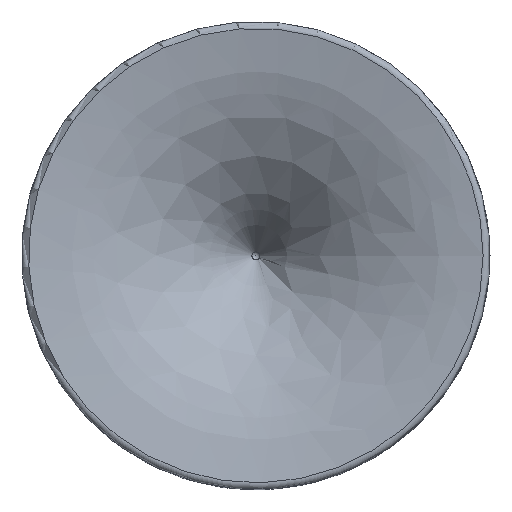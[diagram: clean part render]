
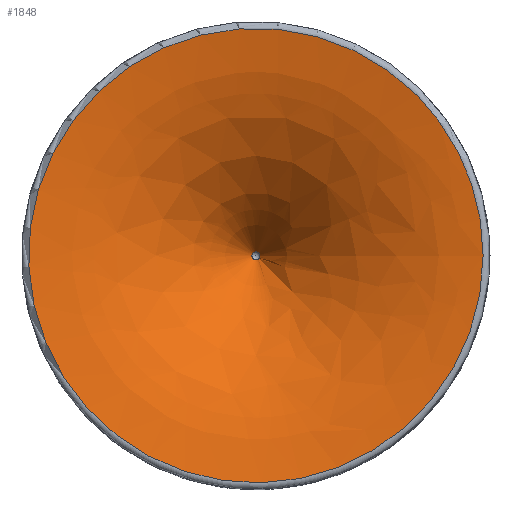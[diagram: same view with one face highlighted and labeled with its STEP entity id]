
A CAD part, top view. The second image highlights one B-rep face of the part: STEP entity #1848.
In plain terms, the highlighted free-form (B-spline) face has degree [2, 2] with [3, 9] control points.
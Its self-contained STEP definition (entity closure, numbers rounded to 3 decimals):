
#23=(
BOUNDED_SURFACE()
B_SPLINE_SURFACE(2,2,((#3410,#3411,#3412,#3413,#3414,#3415,#3416,#3417,
#3418),(#3419,#3420,#3421,#3422,#3423,#3424,#3425,#3426,#3427),(#3428,#3429,
#3430,#3431,#3432,#3433,#3434,#3435,#3436)),.UNSPECIFIED.,.F.,.T.,.F.)
B_SPLINE_SURFACE_WITH_KNOTS((3,3),(3,2,2,2,3),(1.673,2.567),
(-3.142,-1.571,0.,1.571,3.142),
 .UNSPECIFIED.)
GEOMETRIC_REPRESENTATION_ITEM()
RATIONAL_B_SPLINE_SURFACE(((1.,0.707,1.,0.707,1.,
0.707,1.,0.707,1.),(0.902,0.638,
0.902,0.638,0.902,0.638,0.902,
0.638,0.902),(1.,0.707,1.,0.707,
1.,0.707,1.,0.707,1.)))
REPRESENTATION_ITEM('')
SURFACE()
);
#341=FACE_OUTER_BOUND('',#493,.T.);
#493=EDGE_LOOP('',(#1581,#1582,#1583,#1584,#1585,#1586));
#809=CIRCLE('',#2287,2.519);
#811=CIRCLE('',#2289,2.519);
#812=CIRCLE('',#2290,145.591);
#813=CIRCLE('',#2291,194.);
#814=CIRCLE('',#2292,145.591);
#958=VERTEX_POINT('',#3404);
#959=VERTEX_POINT('',#3405);
#961=VERTEX_POINT('',#3437);
#962=VERTEX_POINT('',#3438);
#1173=EDGE_CURVE('',#958,#959,#809,.T.);
#1175=EDGE_CURVE('',#959,#958,#811,.T.);
#1176=EDGE_CURVE('',#961,#962,#812,.T.);
#1177=EDGE_CURVE('',#962,#958,#813,.T.);
#1178=EDGE_CURVE('',#962,#961,#814,.T.);
#1581=ORIENTED_EDGE('',*,*,#1176,.T.);
#1582=ORIENTED_EDGE('',*,*,#1177,.T.);
#1583=ORIENTED_EDGE('',*,*,#1175,.F.);
#1584=ORIENTED_EDGE('',*,*,#1173,.F.);
#1585=ORIENTED_EDGE('',*,*,#1177,.F.);
#1586=ORIENTED_EDGE('',*,*,#1178,.T.);
#1848=ADVANCED_FACE('',(#341),#23,.F.);
#2287=AXIS2_PLACEMENT_3D('',#3406,#2835,#2836);
#2289=AXIS2_PLACEMENT_3D('',#3409,#2839,#2840);
#2290=AXIS2_PLACEMENT_3D('',#3439,#2841,#2842);
#2291=AXIS2_PLACEMENT_3D('',#3440,#2843,#2844);
#2292=AXIS2_PLACEMENT_3D('',#3441,#2845,#2846);
#2835=DIRECTION('center_axis',(0.,0.,1.));
#2836=DIRECTION('ref_axis',(0.707,0.707,0.));
#2839=DIRECTION('center_axis',(0.,0.,1.));
#2840=DIRECTION('ref_axis',(0.707,0.707,0.));
#2841=DIRECTION('center_axis',(0.,0.,1.));
#2842=DIRECTION('ref_axis',(0.707,0.707,0.));
#2843=DIRECTION('center_axis',(0.,1.,0.));
#2844=DIRECTION('ref_axis',(-1.,0.,0.));
#2845=DIRECTION('center_axis',(0.,0.,1.));
#2846=DIRECTION('ref_axis',(0.707,0.707,0.));
#3404=CARTESIAN_POINT('',(-2.519,0.,182.87));
#3405=CARTESIAN_POINT('',(-1.781,1.781,182.87));
#3406=CARTESIAN_POINT('Origin',(0.,0.,182.87));
#3409=CARTESIAN_POINT('Origin',(0.,0.,182.87));
#3410=CARTESIAN_POINT('Ctrl Pts',(-145.591,0.,
270.479));
#3411=CARTESIAN_POINT('Ctrl Pts',(-145.591,-145.591,270.479));
#3412=CARTESIAN_POINT('Ctrl Pts',(0.,-145.591,
270.479));
#3413=CARTESIAN_POINT('Ctrl Pts',(145.591,-145.591,270.479));
#3414=CARTESIAN_POINT('Ctrl Pts',(145.591,0.,
270.479));
#3415=CARTESIAN_POINT('Ctrl Pts',(145.591,145.591,270.479));
#3416=CARTESIAN_POINT('Ctrl Pts',(0.,145.591,
270.479));
#3417=CARTESIAN_POINT('Ctrl Pts',(-145.591,145.591,270.479));
#3418=CARTESIAN_POINT('Ctrl Pts',(-145.591,0.,
270.479));
#3419=CARTESIAN_POINT('Ctrl Pts',(-53.05,0.,
260.978));
#3420=CARTESIAN_POINT('Ctrl Pts',(-53.05,-53.05,260.978));
#3421=CARTESIAN_POINT('Ctrl Pts',(0.,-53.05,
260.978));
#3422=CARTESIAN_POINT('Ctrl Pts',(53.05,-53.05,260.978));
#3423=CARTESIAN_POINT('Ctrl Pts',(53.05,0.,
260.978));
#3424=CARTESIAN_POINT('Ctrl Pts',(53.05,53.05,260.978));
#3425=CARTESIAN_POINT('Ctrl Pts',(0.,53.05,
260.978));
#3426=CARTESIAN_POINT('Ctrl Pts',(-53.05,53.05,260.978));
#3427=CARTESIAN_POINT('Ctrl Pts',(-53.05,0.,
260.978));
#3428=CARTESIAN_POINT('Ctrl Pts',(-2.519,0.,
182.87));
#3429=CARTESIAN_POINT('Ctrl Pts',(-2.519,-2.519,182.87));
#3430=CARTESIAN_POINT('Ctrl Pts',(0.,-2.519,
182.87));
#3431=CARTESIAN_POINT('Ctrl Pts',(2.519,-2.519,182.87));
#3432=CARTESIAN_POINT('Ctrl Pts',(2.519,0.,
182.87));
#3433=CARTESIAN_POINT('Ctrl Pts',(2.519,2.519,182.87));
#3434=CARTESIAN_POINT('Ctrl Pts',(0.,2.519,182.87));
#3435=CARTESIAN_POINT('Ctrl Pts',(-2.519,2.519,182.87));
#3436=CARTESIAN_POINT('Ctrl Pts',(-2.519,0.,
182.87));
#3437=CARTESIAN_POINT('',(-102.949,-102.949,270.479));
#3438=CARTESIAN_POINT('',(-145.591,0.,270.479));
#3439=CARTESIAN_POINT('Origin',(0.,0.,270.479));
#3440=CARTESIAN_POINT('Origin',(-165.404,0.,
77.493));
#3441=CARTESIAN_POINT('Origin',(0.,0.,270.479));
